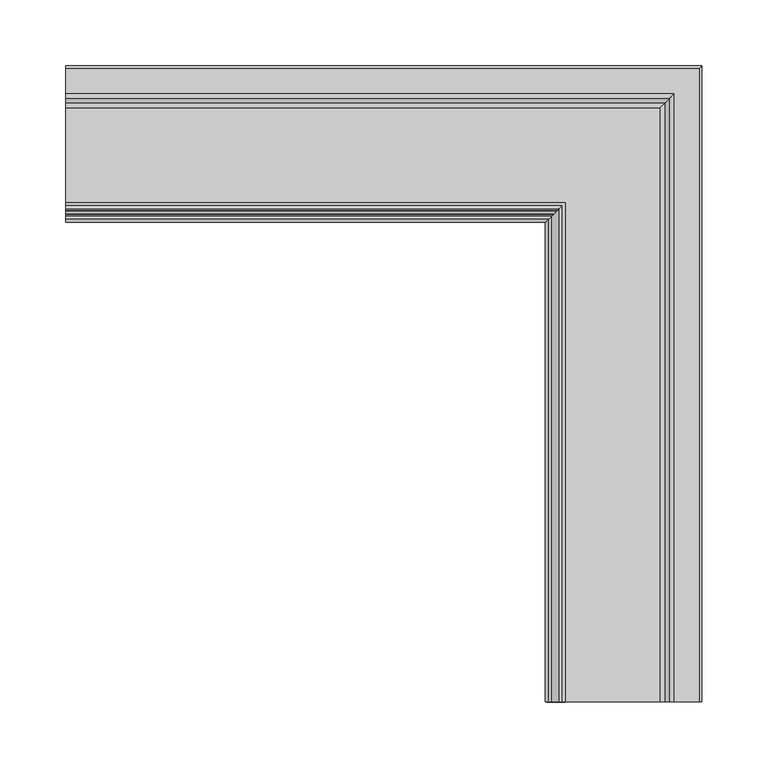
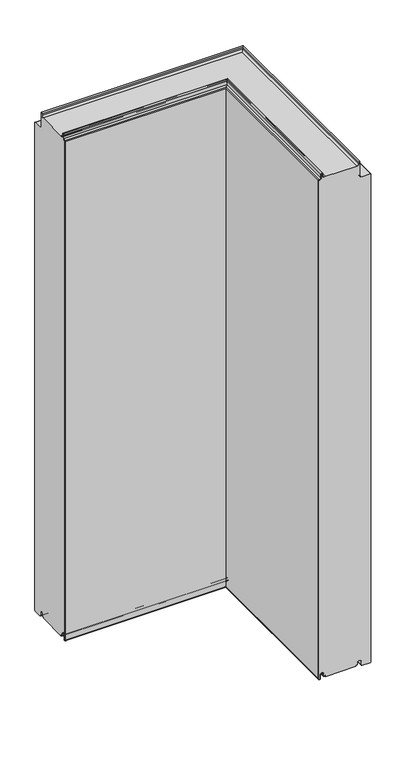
"""IFC4 building model written with IfcOpenShell, lengths in millimetres: plate geometry, Угловой модуль Fronttop : Угловой модуль Fronttop 120/1200."""

from ifc_helpers import new_model, si_unit, frame, origin, place, context, project, spatial, polyline, circle_curve, ellipse_curve, source, transform, mapped, element, save
from ifc_brep_helpers import plane_surface, cylinder_surface, revolved_surface, advanced_brep


def plate_14ed3cdb(model_context):
    return source(origin(), model_context, "Body", "AdvancedBrep", [
        advanced_brep(
        [(-234.5, 15.0, 3.0), (-234.5, 13.0, 3.0), (-234.5, 12.0, 4.0), (-234.5, 12.0, 8.0), (-234.5, 3.0, 8.0), (-234.5, 3.0, -0.5), (-234.5, 1.0, -0.5), (-234.5, 1.0, 1195.0278643), (-234.5, 2.1111111, 1196.0216723), (-234.5, 6.0, 1199.5), (-234.5, 6.0, 1208.0), (-234.5, 9.0, 1208.0), (-234.5, 9.0, 1204.0), (-234.5, 13.0, 1200.0), (-234.5, 87.0, 1200.0), (-234.5, 91.0, 1204.0), (-234.5, 91.0, 1208.0), (-234.5, 94.0, 1208.0), (-234.5, 94.0, 1175.0), (-234.5, 98.0, 1171.0), (-234.5, 117.0, 1171.0), (-234.5, 119.0, 1169.0), (-234.5, 119.0, 0.0), (-234.5, 117.0, -2.0), (-234.5, 99.0, -2.0), (-234.5, 97.0, 0.0), (-234.5, 97.0, 8.0), (-234.5, 88.0, 8.0), (-234.5, 88.0, 4.0), (-234.5, 87.0, 3.0), (-234.5, 85.0, 3.0), (-234.5, 85.0, 0.0), (-234.5, 15.0, 0.0), (145.0, 15.0, 0.0), (145.0, 15.0, 3.0), (215.0, 85.0, 0.0), (215.0, -364.5, 0.0), (145.0, -364.5, 0.0), (215.0, 85.0, 3.0), (217.0, 87.0, 3.0), (217.0, -364.5, 3.0), (215.0, -364.5, 3.0), (218.0, 88.0, 4.0), (218.0, 88.0, 8.0), (227.0, 97.0, 8.0), (227.0, 97.0, 0.0), (229.0, 99.0, -2.0), (247.0, 117.0, -2.0), (247.0, -364.5, -2.0), (229.0, -364.5, -2.0), (249.0, 119.0, 0.0), (249.0, 119.0, 1169.0), (247.0, 117.0, 1171.0), (228.0, 98.0, 1171.0), (228.0, -364.5, 1171.0), (247.0, -364.5, 1171.0), (224.0, 94.0, 1175.0), (224.0, 94.0, 1208.0), (221.0, 91.0, 1208.0), (221.0, 91.0, 1204.0), (217.0, 87.0, 1200.0), (143.0, 13.0, 1200.0), (143.0, -364.5, 1200.0), (217.0, -364.5, 1200.0), (139.0, 9.0, 1204.0), (139.0, 9.0, 1208.0), (136.0, 6.0, 1208.0), (136.0, 6.0, 1199.5), (132.1111111, 2.1111111, 1196.021672), (131.0, 1.0, 1195.0278643), (131.0, 1.0, -0.5), (133.0, 3.0, -0.5), (133.0, 3.0, 8.0), (142.0, 12.0, 8.0), (142.0, 12.0, 4.0), (143.0, 13.0, 3.0), (145.0, -364.5, 3.0), (143.0, -364.5, 3.0), (218.0, -364.5, 4.0), (218.0, -364.5, 8.0), (227.0, -364.5, 8.0), (227.0, -364.5, 0.0), (249.0, -364.5, 0.0), (249.0, -364.5, 1169.0), (224.0, -364.5, 1175.0), (224.0, -364.5, 1208.0), (221.0, -364.5, 1208.0), (221.0, -364.5, 1204.0), (139.0, -364.5, 1204.0), (139.0, -364.5, 1208.0), (136.0, -364.5, 1208.0), (136.0, -364.5, 1199.5), (132.1111111, -364.5, 1196.021672), (131.0, -364.5, 1195.0278643), (131.0, -364.5, -0.5), (133.0, -364.5, -0.5), (133.0, -364.5, 8.0), (142.0, -364.5, 8.0), (142.0, -364.5, 4.0)],
        [
            (0, 1),
            (1, 2, circle_curve(frame((-234.5, 13.0, 4.0), z_axis=(-1.0, 0.0, 0.0), x_axis=(0.0, -1.0, 0.0)), 1.0)),
            (2, 3),
            (3, 4, circle_curve(frame((-234.5, 7.5, 8.0), z_axis=(1.0, 0.0, 0.0), x_axis=(0.0, -1.0, 0.0)), 4.5)),
            (4, 5),
            (5, 6, circle_curve(frame((-234.5, 2.0, -0.5), z_axis=(-1.0, 0.0, 0.0), x_axis=(0.0, -1.0, 0.0)), 1.0)),
            (6, 7),
            (7, 8, circle_curve(frame((-234.5, 2.0, 1195.0278643), z_axis=(-1.0, 0.0, 0.0), x_axis=(0.0, -1.0, 0.0)), 1.0)),
            (8, 9, circle_curve(frame((-234.5, 2.5, 1199.5), z_axis=(1.0, 0.0, 0.0), x_axis=(0.0, -1.0, 0.0)), 3.5)),
            (9, 10),
            (10, 11, circle_curve(frame((-234.5, 7.5, 1208.0), z_axis=(-1.0, 0.0, 0.0), x_axis=(0.0, -1.0, 0.0)), 1.5)),
            (11, 12),
            (12, 13, circle_curve(frame((-234.5, 13.0, 1204.0), z_axis=(1.0, 0.0, 0.0), x_axis=(0.0, -1.0, 0.0)), 4.0)),
            (13, 14),
            (14, 15, circle_curve(frame((-234.5, 87.0, 1204.0), z_axis=(1.0, 0.0, 0.0), x_axis=(0.0, -1.0, 0.0)), 4.0)),
            (15, 16),
            (16, 17, circle_curve(frame((-234.5, 92.5, 1208.0), z_axis=(-1.0, 0.0, 0.0), x_axis=(0.0, -1.0, 0.0)), 1.5)),
            (17, 18),
            (18, 19, circle_curve(frame((-234.5, 98.0, 1175.0), z_axis=(1.0, 0.0, 0.0), x_axis=(0.0, -1.0, 0.0)), 4.0)),
            (19, 20),
            (20, 21, circle_curve(frame((-234.5, 117.0, 1169.0), z_axis=(-1.0, 0.0, 0.0), x_axis=(0.0, -1.0, 0.0)), 2.0)),
            (21, 22),
            (22, 23, circle_curve(frame((-234.5, 117.0, 0.0), z_axis=(-1.0, 0.0, 0.0), x_axis=(0.0, -1.0, 0.0)), 2.0)),
            (23, 24),
            (24, 25, circle_curve(frame((-234.5, 99.0, 0.0), z_axis=(-1.0, 0.0, 0.0), x_axis=(0.0, -1.0, 0.0)), 2.0)),
            (25, 26),
            (26, 27, circle_curve(frame((-234.5, 92.5, 8.0), z_axis=(1.0, 0.0, 0.0), x_axis=(0.0, -1.0, 0.0)), 4.5)),
            (27, 28),
            (28, 29, circle_curve(frame((-234.5, 87.0, 4.0), z_axis=(-1.0, 0.0, 0.0), x_axis=(0.0, -1.0, 0.0)), 1.0)),
            (29, 30),
            (30, 31),
            (31, 32),
            (32, 0),
            (32, 33),
            (33, 34),
            (34, 0),
            (31, 35),
            (35, 36),
            (36, 37),
            (37, 33),
            (30, 38),
            (38, 35),
            (29, 39),
            (39, 40),
            (40, 41),
            (41, 38),
            (28, 42),
            (42, 39, ellipse_curve(frame((217.0, 87.0, 4.0), z_axis=(-0.7071067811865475, 0.7071067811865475, 0.0), x_axis=(-0.7071067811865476, -0.7071067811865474, 0.0)), 1.4142136, 1.0)),
            (27, 43),
            (43, 42),
            (26, 44),
            (44, 43, ellipse_curve(frame((222.5, 92.5, 8.0), z_axis=(0.7071067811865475, -0.7071067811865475, 0.0), x_axis=(0.7071067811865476, 0.7071067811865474, 0.0)), 6.363961, 4.5)),
            (25, 45),
            (45, 44),
            (24, 46),
            (46, 45, ellipse_curve(frame((229.0, 99.0, 0.0), z_axis=(-0.7071067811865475, 0.7071067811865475, 0.0), x_axis=(-0.7071067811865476, -0.7071067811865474, 0.0)), 2.8284271, 2.0)),
            (23, 47),
            (47, 48),
            (48, 49),
            (49, 46),
            (22, 50),
            (50, 47, ellipse_curve(frame((247.0, 117.0, 0.0), z_axis=(-0.7071067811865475, 0.7071067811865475, 0.0), x_axis=(-0.7071067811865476, -0.7071067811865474, 0.0)), 2.8284271, 2.0)),
            (21, 51),
            (51, 50),
            (20, 52),
            (52, 51, ellipse_curve(frame((247.0, 117.0, 1169.0), z_axis=(-0.7071067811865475, 0.7071067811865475, 0.0), x_axis=(-0.7071067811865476, -0.7071067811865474, 0.0)), 2.8284271, 2.0)),
            (19, 53),
            (53, 54),
            (54, 55),
            (55, 52),
            (18, 56),
            (56, 53, ellipse_curve(frame((228.0, 98.0, 1175.0), z_axis=(0.7071067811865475, -0.7071067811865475, 0.0), x_axis=(0.7071067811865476, 0.7071067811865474, 0.0)), 5.6568542, 4.0)),
            (17, 57),
            (57, 56),
            (16, 58),
            (58, 57, ellipse_curve(frame((222.5, 92.5, 1208.0), z_axis=(-0.7071067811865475, 0.7071067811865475, 0.0), x_axis=(-0.7071067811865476, -0.7071067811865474, 0.0)), 2.1213203, 1.5)),
            (15, 59),
            (59, 58),
            (14, 60),
            (60, 59, ellipse_curve(frame((217.0, 87.0, 1204.0), z_axis=(0.7071067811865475, -0.7071067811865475, 0.0), x_axis=(0.7071067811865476, 0.7071067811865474, 0.0)), 5.6568542, 4.0)),
            (13, 61),
            (61, 62),
            (62, 63),
            (63, 60),
            (12, 64),
            (64, 61, ellipse_curve(frame((143.0, 13.0, 1204.0), z_axis=(0.7071067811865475, -0.7071067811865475, 0.0), x_axis=(0.7071067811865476, 0.7071067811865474, 0.0)), 5.6568542, 4.0)),
            (11, 65),
            (65, 64),
            (10, 66),
            (66, 65, ellipse_curve(frame((137.5, 7.5, 1208.0), z_axis=(-0.7071067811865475, 0.7071067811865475, 0.0), x_axis=(-0.7071067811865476, -0.7071067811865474, 0.0)), 2.1213204, 1.5)),
            (9, 67),
            (67, 66),
            (8, 68),
            (68, 67, ellipse_curve(frame((132.5, 2.5, 1199.5), z_axis=(0.7071067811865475, -0.7071067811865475, 0.0), x_axis=(0.7071067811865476, 0.7071067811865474, 0.0)), 4.9497475, 3.5)),
            (7, 69),
            (69, 68, ellipse_curve(frame((132.0, 2.0, 1195.0278643), z_axis=(-0.7071067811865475, 0.7071067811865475, 0.0), x_axis=(-0.7071067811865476, -0.7071067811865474, 0.0)), 1.4142136, 1.0)),
            (6, 70),
            (70, 69),
            (5, 71),
            (71, 70, ellipse_curve(frame((132.0, 2.0, -0.5), z_axis=(-0.7071067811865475, 0.7071067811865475, 0.0), x_axis=(-0.7071067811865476, -0.7071067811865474, 0.0)), 1.4142136, 1.0)),
            (4, 72),
            (72, 71),
            (3, 73),
            (73, 72, ellipse_curve(frame((137.5, 7.5, 8.0), z_axis=(0.7071067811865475, -0.7071067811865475, 0.0), x_axis=(0.7071067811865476, 0.7071067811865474, 0.0)), 6.363961, 4.5)),
            (2, 74),
            (74, 73),
            (1, 75),
            (75, 74, ellipse_curve(frame((143.0, 13.0, 4.0), z_axis=(-0.7071067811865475, 0.7071067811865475, 0.0), x_axis=(-0.7071067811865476, -0.7071067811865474, 0.0)), 1.4142136, 1.0)),
            (34, 76),
            (76, 77),
            (77, 75),
            (76, 37),
            (36, 41),
            (40, 78, circle_curve(frame((217.0, -364.5, 4.0), z_axis=(0.0, -1.0, 0.0), x_axis=(-1.0, 0.0, 0.0)), 1.0)),
            (78, 79),
            (79, 80, circle_curve(frame((222.5, -364.5, 8.0), z_axis=(0.0, 1.0, 0.0), x_axis=(-1.0, 0.0, 0.0)), 4.5)),
            (80, 81),
            (81, 49, circle_curve(frame((229.0, -364.5, 0.0), z_axis=(0.0, -1.0, 0.0), x_axis=(-1.0, 0.0, 0.0)), 2.0)),
            (48, 82, circle_curve(frame((247.0, -364.5, 0.0), z_axis=(0.0, -1.0, 0.0), x_axis=(-1.0, 0.0, 0.0)), 2.0)),
            (82, 83),
            (83, 55, circle_curve(frame((247.0, -364.5, 1169.0), z_axis=(0.0, -1.0, 0.0), x_axis=(-1.0, 0.0, 0.0)), 2.0)),
            (54, 84, circle_curve(frame((228.0, -364.5, 1175.0), z_axis=(0.0, 1.0, 0.0), x_axis=(-1.0, 0.0, 0.0)), 4.0)),
            (84, 85),
            (85, 86, circle_curve(frame((222.5, -364.5, 1208.0), z_axis=(0.0, -1.0, 0.0), x_axis=(-1.0, 0.0, 0.0)), 1.5)),
            (86, 87),
            (87, 63, circle_curve(frame((217.0, -364.5, 1204.0), z_axis=(0.0, 1.0, 0.0), x_axis=(-1.0, 0.0, 0.0)), 4.0)),
            (62, 88, circle_curve(frame((143.0, -364.5, 1204.0), z_axis=(0.0, 1.0, 0.0), x_axis=(-1.0, 0.0, 0.0)), 4.0)),
            (88, 89),
            (89, 90, circle_curve(frame((137.5, -364.5, 1208.0), z_axis=(0.0, -1.0, 0.0), x_axis=(-1.0, 0.0, 0.0)), 1.5)),
            (90, 91),
            (91, 92, circle_curve(frame((132.5, -364.5, 1199.5), z_axis=(0.0, 1.0, 0.0), x_axis=(-1.0, 0.0, 0.0)), 3.5)),
            (92, 93, circle_curve(frame((132.0, -364.5, 1195.0278643), z_axis=(0.0, -1.0, 0.0), x_axis=(-1.0, 0.0, 0.0)), 1.0)),
            (93, 94),
            (94, 95, circle_curve(frame((132.0, -364.5, -0.5), z_axis=(0.0, -1.0, 0.0), x_axis=(-1.0, 0.0, 0.0)), 1.0)),
            (95, 96),
            (96, 97, circle_curve(frame((137.5, -364.5, 8.0), z_axis=(0.0, 1.0, 0.0), x_axis=(-1.0, 0.0, 0.0)), 4.5)),
            (97, 98),
            (98, 77, circle_curve(frame((143.0, -364.5, 4.0), z_axis=(0.0, -1.0, 0.0), x_axis=(-1.0, 0.0, 0.0)), 1.0)),
            (42, 78),
            (43, 79),
            (44, 80),
            (45, 81),
            (50, 82),
            (51, 83),
            (56, 84),
            (57, 85),
            (58, 86),
            (59, 87),
            (64, 88),
            (65, 89),
            (66, 90),
            (67, 91),
            (68, 92),
            (69, 93),
            (70, 94),
            (71, 95),
            (72, 96),
            (73, 97),
            (74, 98),
        ],
        [
            plane_surface(frame((-234.5, 0.0, 0.0), z_axis=(-1.0, 0.0, 0.0), x_axis=(0.0, 0.0, 1.0))),
            plane_surface(frame((-234.5, 15.0, 0.0), z_axis=(0.0, -1.0, 0.0), x_axis=(1.0, 0.0, 0.0))),
            plane_surface(frame((-234.5, 85.0, 0.0), z_axis=(0.0, 0.0, -1.0), x_axis=(1.0, 0.0, 0.0))),
            plane_surface(frame((-234.5, 85.0, 3.0), z_axis=(0.0, 1.0, 0.0), x_axis=(1.0, 0.0, 0.0))),
            plane_surface(frame((-234.5, 87.0, 3.0), z_axis=(0.0, 0.0, -1.0), x_axis=(1.0, 0.0, 0.0))),
            cylinder_surface(frame((-234.5, 87.0, 4.0), z_axis=(-1.0, 0.0, 0.0), x_axis=(0.0, -1.0, 0.0)), 1.0),
            plane_surface(frame((-234.5, 88.0, 8.0), z_axis=(0.0, 1.0, 0.0), x_axis=(1.0, 0.0, 0.0))),
            revolved_surface(polyline([(227.0, 88.0, 8.0), (-234.5, 88.0, 8.0)]), (-234.5, 92.5, 8.0), (1.0, 0.0, 0.0)),
            plane_surface(frame((-234.5, 97.0, 0.0), z_axis=(0.0, -1.0, 0.0), x_axis=(1.0, 0.0, 0.0))),
            cylinder_surface(frame((-234.5, 99.0, 0.0), z_axis=(-1.0, 0.0, 0.0), x_axis=(0.0, -1.0, 0.0)), 2.0),
            plane_surface(frame((-234.5, 117.0, -2.0), z_axis=(0.0, 0.0, -1.0), x_axis=(1.0, 0.0, 0.0))),
            cylinder_surface(frame((-234.5, 117.0, 0.0), z_axis=(-1.0, 0.0, 0.0), x_axis=(0.0, -1.0, 0.0)), 2.0),
            plane_surface(frame((-234.5, 119.0, 1169.0), z_axis=(0.0, 1.0, 0.0), x_axis=(1.0, 0.0, 0.0))),
            cylinder_surface(frame((-234.5, 117.0, 1169.0), z_axis=(-1.0, 0.0, 0.0), x_axis=(0.0, -1.0, 0.0)), 2.0),
            plane_surface(frame((-234.5, 98.0, 1171.0), z_axis=(0.0, 0.0, 1.0), x_axis=(1.0, 0.0, 0.0))),
            revolved_surface(polyline([(231.9999999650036, 94.0, 1175.0), (-234.5, 94.0, 1175.0)]), (-234.5, 98.0, 1175.0), (1.0, 0.0, 0.0)),
            plane_surface(frame((-234.5, 94.0, 1208.0), z_axis=(0.0, 1.0, 0.0), x_axis=(1.0, 0.0, 0.0))),
            cylinder_surface(frame((-234.5, 92.5, 1208.0), z_axis=(-1.0, 0.0, 0.0), x_axis=(0.0, -1.0, 0.0)), 1.5),
            plane_surface(frame((-234.5, 91.0, 1204.0), z_axis=(0.0, -1.0, 0.0), x_axis=(1.0, 0.0, 0.0))),
            revolved_surface(polyline([(221.0, 83.0, 1204.0), (-234.5, 83.0, 1204.0)]), (-234.5, 87.0, 1204.0), (1.0, 0.0, 0.0)),
            plane_surface(frame((-234.5, 13.0, 1200.0), z_axis=(0.0, 0.0, 1.0), x_axis=(1.0, 0.0, 0.0))),
            revolved_surface(polyline([(146.9999999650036, 9.0, 1204.0), (-234.5, 9.0, 1204.0)]), (-234.5, 13.0, 1204.0), (1.0, 0.0, 0.0)),
            plane_surface(frame((-234.5, 9.0, 1208.0), z_axis=(0.0, 1.0, 0.0), x_axis=(1.0, 0.0, 0.0))),
            cylinder_surface(frame((-234.5, 7.5, 1208.0), z_axis=(-1.0, 0.0, 0.0), x_axis=(0.0, -1.0, 0.0)), 1.5),
            plane_surface(frame((-234.5, 6.0, 1199.5), z_axis=(0.0, -1.0, 0.0), x_axis=(1.0, 0.0, 0.0))),
            revolved_surface(polyline([(136.00000002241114, -1.0, 1199.5), (-234.5, -1.0, 1199.5)]), (-234.5, 2.5, 1199.5), (1.0, 0.0, 0.0)),
            cylinder_surface(frame((-234.5, 2.0, 1195.0278643), z_axis=(-1.0, 0.0, 0.0), x_axis=(0.0, -1.0, 0.0)), 1.0),
            plane_surface(frame((-234.5, 1.0, -0.5), z_axis=(0.0, -1.0, 0.0), x_axis=(1.0, 0.0, 0.0))),
            cylinder_surface(frame((-234.5, 2.0, -0.5), z_axis=(-1.0, 0.0, 0.0), x_axis=(0.0, -1.0, 0.0)), 1.0),
            plane_surface(frame((-234.5, 3.0, 8.0), z_axis=(0.0, 1.0, 0.0), x_axis=(1.0, 0.0, 0.0))),
            revolved_surface(polyline([(142.0, 3.0, 8.0), (-234.5, 3.0, 8.0)]), (-234.5, 7.5, 8.0), (1.0, 0.0, 0.0)),
            plane_surface(frame((-234.5, 12.0, 4.0), z_axis=(0.0, -1.0, 0.0), x_axis=(1.0, 0.0, 0.0))),
            cylinder_surface(frame((-234.5, 13.0, 4.0), z_axis=(-1.0, 0.0, 0.0), x_axis=(0.0, -1.0, 0.0)), 1.0),
            plane_surface(frame((-234.5, 15.0, 3.0), z_axis=(0.0, 0.0, -1.0), x_axis=(1.0, 0.0, 0.0))),
            plane_surface(frame((130.0, -364.5, 0.0), z_axis=(0.0, -1.0, 0.0), x_axis=(0.0, 0.0, 1.0))),
            plane_surface(frame((145.0, 15.0, 0.0), z_axis=(-1.0, 0.0, 0.0), x_axis=(0.0, -1.0, 0.0))),
            plane_surface(frame((215.0, 85.0, 3.0), z_axis=(1.0, 0.0, 0.0), x_axis=(0.0, -1.0, 0.0))),
            cylinder_surface(frame((217.0, 0.0, 4.0), z_axis=(0.0, 1.0, 0.0), x_axis=(-1.0, 0.0, 0.0)), 1.0),
            plane_surface(frame((218.0, 88.0, 8.0), z_axis=(1.0, 0.0, 0.0), x_axis=(0.0, -1.0, 0.0))),
            revolved_surface(polyline([(218.0, -364.5, 8.0), (218.0, 97.0, 8.0)]), (222.5, 0.0, 8.0), (0.0, -1.0, 0.0)),
            plane_surface(frame((227.0, 97.0, 0.0), z_axis=(-1.0, 0.0, 0.0), x_axis=(0.0, -1.0, 0.0))),
            cylinder_surface(frame((229.0, 0.0, 0.0), z_axis=(0.0, 1.0, 0.0), x_axis=(-1.0, 0.0, 0.0)), 2.0),
            cylinder_surface(frame((247.0, 0.0, 0.0), z_axis=(0.0, 1.0, 0.0), x_axis=(-1.0, 0.0, 0.0)), 2.0),
            plane_surface(frame((249.0, 119.0, 1169.0), z_axis=(1.0, 0.0, 0.0), x_axis=(0.0, -1.0, 0.0))),
            cylinder_surface(frame((247.0, 0.0, 1169.0), z_axis=(0.0, 1.0, 0.0), x_axis=(-1.0, 0.0, 0.0)), 2.0),
            revolved_surface(polyline([(224.0, -364.5, 1175.0), (224.0, 101.9999999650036, 1175.0)]), (228.0, 0.0, 1175.0), (0.0, -1.0, 0.0)),
            plane_surface(frame((224.0, 94.0, 1208.0), z_axis=(1.0, 0.0, 0.0), x_axis=(0.0, -1.0, 0.0))),
            cylinder_surface(frame((222.5, 0.0, 1208.0), z_axis=(0.0, 1.0, 0.0), x_axis=(-1.0, 0.0, 0.0)), 1.5),
            plane_surface(frame((221.0, 91.0, 1204.0), z_axis=(-1.0, 0.0, 0.0), x_axis=(0.0, -1.0, 0.0))),
            revolved_surface(polyline([(213.0, -364.5, 1204.0), (213.0, 91.0, 1204.0)]), (217.0, 0.0, 1204.0), (0.0, -1.0, 0.0)),
            revolved_surface(polyline([(139.0, -364.5, 1204.0), (139.0, 16.999999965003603, 1204.0)]), (143.0, 0.0, 1204.0), (0.0, -1.0, 0.0)),
            plane_surface(frame((139.0, 9.0, 1208.0), z_axis=(1.0, 0.0, 0.0), x_axis=(0.0, -1.0, 0.0))),
            cylinder_surface(frame((137.5, 0.0, 1208.0), z_axis=(0.0, 1.0, 0.0), x_axis=(-1.0, 0.0, 0.0)), 1.5),
            plane_surface(frame((136.0, 6.0, 1199.5), z_axis=(-1.0, 0.0, 0.0), x_axis=(0.0, -1.0, 0.0))),
            revolved_surface(polyline([(129.0, -364.5, 1199.5), (129.0, 6.000000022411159, 1199.5)]), (132.5, 0.0, 1199.5), (0.0, -1.0, 0.0)),
            cylinder_surface(frame((132.0, 0.0, 1195.0278643), z_axis=(0.0, 1.0, 0.0), x_axis=(-1.0, 0.0, 0.0)), 1.0),
            plane_surface(frame((131.0, 1.0, -0.5), z_axis=(-1.0, 0.0, 0.0), x_axis=(0.0, -1.0, 0.0))),
            cylinder_surface(frame((132.0, 0.0, -0.5), z_axis=(0.0, 1.0, 0.0), x_axis=(-1.0, 0.0, 0.0)), 1.0),
            plane_surface(frame((133.0, 3.0, 8.0), z_axis=(1.0, 0.0, 0.0), x_axis=(0.0, -1.0, 0.0))),
            revolved_surface(polyline([(133.0, -364.5, 8.0), (133.0, 12.0, 8.0)]), (137.5, 0.0, 8.0), (0.0, -1.0, 0.0)),
            plane_surface(frame((142.0, 12.0, 4.0), z_axis=(-1.0, 0.0, 0.0), x_axis=(0.0, -1.0, 0.0))),
            cylinder_surface(frame((143.0, 0.0, 4.0), z_axis=(0.0, 1.0, 0.0), x_axis=(-1.0, 0.0, 0.0)), 1.0),
        ],
        [
            (0, [[1, 2, 3, 4, 5, 6, 7, 8, 9, 10, 11, 12, 13, 14, 15, 16, 17, 18, 19, 20, 21, 22, 23, 24, 25, 26, 27, 28, 29, 30, 31, 32, 33]]),
            (1, [[-33, 34, 35, 36]]),
            (2, [[-32, 37, 38, 39, 40, -34]]),
            (3, [[-31, 41, 42, -37]]),
            (4, [[-30, 43, 44, 45, 46, -41]]),
            (5, [[-29, 47, 48, -43]]),
            (6, [[-28, 49, 50, -47]]),
            (7, [[-27, 51, 52, -49]]),
            (8, [[-26, 53, 54, -51]]),
            (9, [[-25, 55, 56, -53]]),
            (10, [[-24, 57, 58, 59, 60, -55]]),
            (11, [[-23, 61, 62, -57]]),
            (12, [[-22, 63, 64, -61]]),
            (13, [[-21, 65, 66, -63]]),
            (14, [[-20, 67, 68, 69, 70, -65]]),
            (15, [[-19, 71, 72, -67]]),
            (16, [[-18, 73, 74, -71]]),
            (17, [[-17, 75, 76, -73]]),
            (18, [[-16, 77, 78, -75]]),
            (19, [[-15, 79, 80, -77]]),
            (20, [[-14, 81, 82, 83, 84, -79]]),
            (21, [[-13, 85, 86, -81]]),
            (22, [[-12, 87, 88, -85]]),
            (23, [[-11, 89, 90, -87]]),
            (24, [[-10, 91, 92, -89]]),
            (25, [[-9, 93, 94, -91]]),
            (26, [[-8, 95, 96, -93]]),
            (27, [[-7, 97, 98, -95]]),
            (28, [[-6, 99, 100, -97]]),
            (29, [[-5, 101, 102, -99]]),
            (30, [[-4, 103, 104, -101]]),
            (31, [[-3, 105, 106, -103]]),
            (32, [[-2, 107, 108, -105]]),
            (33, [[-1, -36, 109, 110, 111, -107]]),
            (34, [[112, -39, 113, -45, 114, 115, 116, 117, 118, -59, 119, 120, 121, -69, 122, 123, 124, 125, 126, -83, 127, 128, 129, 130, 131, 132, 133, 134, 135, 136, 137, 138, -110]]),
            (35, [[-35, -40, -112, -109]]),
            (36, [[-42, -46, -113, -38]]),
            (37, [[-48, 139, -114, -44]]),
            (38, [[-50, 140, -115, -139]]),
            (39, [[-52, 141, -116, -140]]),
            (40, [[-54, 142, -117, -141]]),
            (41, [[-56, -60, -118, -142]]),
            (42, [[-62, 143, -119, -58]]),
            (43, [[-64, 144, -120, -143]]),
            (44, [[-66, -70, -121, -144]]),
            (45, [[-72, 145, -122, -68]]),
            (46, [[-74, 146, -123, -145]]),
            (47, [[-76, 147, -124, -146]]),
            (48, [[-78, 148, -125, -147]]),
            (49, [[-80, -84, -126, -148]]),
            (50, [[-86, 149, -127, -82]]),
            (51, [[-88, 150, -128, -149]]),
            (52, [[-90, 151, -129, -150]]),
            (53, [[-92, 152, -130, -151]]),
            (54, [[-94, 153, -131, -152]]),
            (55, [[-96, 154, -132, -153]]),
            (56, [[-98, 155, -133, -154]]),
            (57, [[-100, 156, -134, -155]]),
            (58, [[-102, 157, -135, -156]]),
            (59, [[-104, 158, -136, -157]]),
            (60, [[-106, 159, -137, -158]]),
            (61, [[-108, -111, -138, -159]]),
        ],
    ),
        advanced_brep(
        [(-234.5, 13.0, 1201.0), (-234.5, 15.0, 1201.0), (-234.5, 15.0, 1200.0), (-234.5, 13.0, 1200.0), (-234.5, 9.0, 1204.0), (-234.5, 9.0, 1208.0), (-234.5, 6.0, 1208.0), (-234.5, 6.0, 1199.5), (-234.5, 2.1134897, 1196.0214069), (-234.5, 1.0, 1195.0), (-234.5, 1.0, -0.5), (-234.5, 3.0, -0.5), (-234.5, 3.0, 8.0), (-234.5, 12.0, 8.0), (-234.5, 12.0, 4.0), (-234.5, 13.0, 3.0), (-234.5, 15.0, 3.0), (-234.5, 15.0, 2.0), (-234.5, 13.0, 2.0), (-234.5, 11.0, 4.0), (-234.5, 11.0, 8.0), (-234.5, 4.0, 8.0), (-234.5, 4.0, -0.5), (-234.5, 0.0, -0.5), (-234.5, 0.0, 1195.0), (-234.5, 2.220863, 1196.9877675), (-234.5, 5.0, 1199.5), (-234.5, 5.0, 1208.0), (-234.5, 10.0, 1208.0), (-234.5, 10.0, 1204.0), (143.0, 13.0, 1201.0), (143.0, -364.5, 1201.0), (145.0, -364.5, 1201.0), (145.0, 15.0, 1201.0), (145.0, 15.0, 1200.0), (145.0, -364.5, 1200.0), (143.0, -364.5, 1200.0), (143.0, 13.0, 1200.0), (139.0, 9.0, 1204.0), (139.0, 9.0, 1208.0), (136.0, 6.0, 1208.0), (136.0, 6.0, 1199.5), (132.1134897, 2.1134897, 1196.0214069), (131.0, 1.0, 1195.0), (131.0, 1.0, -0.5), (133.0, 3.0, -0.5), (133.0, 3.0, 8.0), (142.0, 12.0, 8.0), (142.0, 12.0, 4.0), (143.0, 13.0, 3.0), (143.0, -364.5, 3.0), (145.0, -364.5, 3.0), (145.0, 15.0, 3.0), (145.0, 15.0, 2.0), (145.0, -364.5, 2.0), (143.0, -364.5, 2.0), (143.0, 13.0, 2.0), (141.0, 11.0, 4.0), (141.0, 11.0, 8.0), (134.0, 4.0, 8.0), (134.0, 4.0, -0.5), (130.0, 0.0, -0.5), (130.0, 0.0, 1195.0), (132.220863, 2.220863, 1196.9877675), (135.0, 5.0, 1199.5), (135.0, 5.0, 1208.0), (140.0, 10.0, 1208.0), (140.0, 10.0, 1204.0), (140.0, -364.5, 1204.0), (140.0, -364.5, 1208.0), (135.0, -364.5, 1208.0), (135.0, -364.5, 1199.5), (132.2239212, -364.5, 1197.0152907), (130.0, -364.5, 1195.0), (130.0, -364.5, -0.5), (134.0, -364.5, -0.5), (134.0, -364.5, 8.0), (141.0, -364.5, 8.0), (141.0, -364.5, 4.0), (142.0, -364.5, 4.0), (142.0, -364.5, 8.0), (133.0, -364.5, 8.0), (133.0, -364.5, -0.5), (131.0, -364.5, -0.5), (131.0, -364.5, 1195.0), (132.1104315, -364.5, 1195.9938837), (136.0, -364.5, 1199.5), (136.0, -364.5, 1208.0), (139.0, -364.5, 1208.0), (139.0, -364.5, 1204.0)],
        [
            (0, 1),
            (1, 2),
            (2, 3),
            (3, 4, circle_curve(frame((-234.5, 13.0, 1204.0), z_axis=(-1.0, 0.0, 0.0), x_axis=(0.0, -1.0, 0.0)), 4.0)),
            (4, 5),
            (5, 6, circle_curve(frame((-234.5, 7.5, 1208.0), z_axis=(1.0, 0.0, 0.0), x_axis=(0.0, -1.0, 0.0)), 1.5)),
            (6, 7),
            (7, 8, circle_curve(frame((-234.5, 2.5, 1199.5), z_axis=(-1.0, 0.0, 0.0), x_axis=(0.0, -1.0, 0.0)), 3.5)),
            (8, 9, circle_curve(frame((-234.5, 2.0, 1195.0), z_axis=(1.0, 0.0, 0.0), x_axis=(0.0, -1.0, 0.0)), 1.0)),
            (9, 10),
            (10, 11, circle_curve(frame((-234.5, 2.0, -0.5), z_axis=(1.0, 0.0, 0.0), x_axis=(0.0, -1.0, 0.0)), 1.0)),
            (11, 12),
            (12, 13, circle_curve(frame((-234.5, 7.5, 8.0), z_axis=(-1.0, 0.0, 0.0), x_axis=(0.0, -1.0, 0.0)), 4.5)),
            (13, 14),
            (14, 15, circle_curve(frame((-234.5, 13.0, 4.0), z_axis=(1.0, 0.0, 0.0), x_axis=(0.0, -1.0, 0.0)), 1.0)),
            (15, 16),
            (16, 17),
            (17, 18),
            (18, 19, circle_curve(frame((-234.5, 13.0, 4.0), z_axis=(-1.0, 0.0, 0.0), x_axis=(0.0, -1.0, 0.0)), 2.0)),
            (19, 20),
            (20, 21, circle_curve(frame((-234.5, 7.5, 8.0), z_axis=(1.0, 0.0, 0.0), x_axis=(0.0, -1.0, 0.0)), 3.5)),
            (21, 22),
            (22, 23, circle_curve(frame((-234.5, 2.0, -0.5), z_axis=(-1.0, 0.0, 0.0), x_axis=(0.0, -1.0, 0.0)), 2.0)),
            (23, 24),
            (24, 25, circle_curve(frame((-234.5, 2.0, 1195.0), z_axis=(-1.0, 0.0, 0.0), x_axis=(0.0, -1.0, 0.0)), 2.0)),
            (25, 26, circle_curve(frame((-234.5, 2.5, 1199.5), z_axis=(1.0, 0.0, 0.0), x_axis=(0.0, -1.0, 0.0)), 2.5)),
            (26, 27),
            (27, 28, circle_curve(frame((-234.5, 7.5, 1208.0), z_axis=(-1.0, 0.0, 0.0), x_axis=(0.0, -1.0, 0.0)), 2.5)),
            (28, 29),
            (29, 0, circle_curve(frame((-234.5, 13.0, 1204.0), z_axis=(1.0, 0.0, 0.0), x_axis=(0.0, -1.0, 0.0)), 3.0)),
            (0, 30),
            (30, 31),
            (31, 32),
            (32, 33),
            (33, 1),
            (33, 34),
            (34, 2),
            (34, 35),
            (35, 36),
            (36, 37),
            (37, 3),
            (37, 38, ellipse_curve(frame((143.0, 13.0, 1204.0), z_axis=(-0.7071067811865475, 0.7071067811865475, 0.0), x_axis=(-0.7071067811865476, -0.7071067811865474, 0.0)), 5.6568542, 4.0)),
            (38, 4),
            (38, 39),
            (39, 5),
            (39, 40, ellipse_curve(frame((137.5, 7.5, 1208.0), z_axis=(0.7071067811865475, -0.7071067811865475, 0.0), x_axis=(0.7071067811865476, 0.7071067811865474, 0.0)), 2.1213204, 1.5)),
            (40, 6),
            (40, 41),
            (41, 7),
            (41, 42, ellipse_curve(frame((132.5, 2.5, 1199.5), z_axis=(-0.7071067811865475, 0.7071067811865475, 0.0), x_axis=(-0.7071067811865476, -0.7071067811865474, 0.0)), 4.9497475, 3.5)),
            (42, 8),
            (42, 43, ellipse_curve(frame((132.0, 2.0, 1195.0), z_axis=(0.7071067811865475, -0.7071067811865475, 0.0), x_axis=(0.7071067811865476, 0.7071067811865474, 0.0)), 1.4142136, 1.0)),
            (43, 9),
            (43, 44),
            (44, 10),
            (44, 45, ellipse_curve(frame((132.0, 2.0, -0.5), z_axis=(0.7071067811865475, -0.7071067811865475, 0.0), x_axis=(0.7071067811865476, 0.7071067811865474, 0.0)), 1.4142136, 1.0)),
            (45, 11),
            (45, 46),
            (46, 12),
            (46, 47, ellipse_curve(frame((137.5, 7.5, 8.0), z_axis=(-0.7071067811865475, 0.7071067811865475, 0.0), x_axis=(-0.7071067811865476, -0.7071067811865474, 0.0)), 6.363961, 4.5)),
            (47, 13),
            (47, 48),
            (48, 14),
            (48, 49, ellipse_curve(frame((143.0, 13.0, 4.0), z_axis=(0.7071067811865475, -0.7071067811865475, 0.0), x_axis=(0.7071067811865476, 0.7071067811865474, 0.0)), 1.4142136, 1.0)),
            (49, 15),
            (49, 50),
            (50, 51),
            (51, 52),
            (52, 16),
            (52, 53),
            (53, 17),
            (53, 54),
            (54, 55),
            (55, 56),
            (56, 18),
            (56, 57, ellipse_curve(frame((143.0, 13.0, 4.0), z_axis=(-0.7071067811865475, 0.7071067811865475, 0.0), x_axis=(-0.7071067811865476, -0.7071067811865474, 0.0)), 2.8284271, 2.0)),
            (57, 19),
            (57, 58),
            (58, 20),
            (58, 59, ellipse_curve(frame((137.5, 7.5, 8.0), z_axis=(0.7071067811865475, -0.7071067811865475, 0.0), x_axis=(0.7071067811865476, 0.7071067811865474, 0.0)), 4.9497475, 3.5)),
            (59, 21),
            (59, 60),
            (60, 22),
            (60, 61, ellipse_curve(frame((132.0, 2.0, -0.5), z_axis=(-0.7071067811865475, 0.7071067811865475, 0.0), x_axis=(-0.7071067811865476, -0.7071067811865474, 0.0)), 2.8284271, 2.0)),
            (61, 23),
            (61, 62),
            (62, 24),
            (62, 63, ellipse_curve(frame((132.0, 2.0, 1195.0), z_axis=(-0.7071067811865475, 0.7071067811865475, 0.0), x_axis=(-0.7071067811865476, -0.7071067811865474, 0.0)), 2.8284271, 2.0)),
            (63, 25),
            (63, 64, ellipse_curve(frame((132.5, 2.5, 1199.5), z_axis=(0.7071067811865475, -0.7071067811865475, 0.0), x_axis=(0.7071067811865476, 0.7071067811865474, 0.0)), 3.5355339, 2.5)),
            (64, 26),
            (64, 65),
            (65, 27),
            (65, 66, ellipse_curve(frame((137.5, 7.5, 1208.0), z_axis=(-0.7071067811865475, 0.7071067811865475, 0.0), x_axis=(-0.7071067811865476, -0.7071067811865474, 0.0)), 3.5355339, 2.5)),
            (66, 28),
            (66, 67),
            (67, 29),
            (67, 30, ellipse_curve(frame((143.0, 13.0, 1204.0), z_axis=(0.7071067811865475, -0.7071067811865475, 0.0), x_axis=(0.7071067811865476, 0.7071067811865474, 0.0)), 4.2426407, 3.0)),
            (31, 68, circle_curve(frame((143.0, -364.5, 1204.0), z_axis=(0.0, 1.0, 0.0), x_axis=(-1.0, 0.0, 0.0)), 3.0)),
            (68, 69),
            (69, 70, circle_curve(frame((137.5, -364.5, 1208.0), z_axis=(0.0, -1.0, 0.0), x_axis=(-1.0, 0.0, 0.0)), 2.5)),
            (70, 71),
            (71, 72, circle_curve(frame((132.5, -364.5, 1199.5), z_axis=(0.0, 1.0, 0.0), x_axis=(-1.0, 0.0, 0.0)), 2.5)),
            (72, 73, circle_curve(frame((132.0, -364.5, 1195.0), z_axis=(0.0, -1.0, 0.0), x_axis=(-1.0, 0.0, 0.0)), 2.0)),
            (73, 74),
            (74, 75, circle_curve(frame((132.0, -364.5, -0.5), z_axis=(0.0, -1.0, 0.0), x_axis=(-1.0, 0.0, 0.0)), 2.0)),
            (75, 76),
            (76, 77, circle_curve(frame((137.5, -364.5, 8.0), z_axis=(0.0, 1.0, 0.0), x_axis=(-1.0, 0.0, 0.0)), 3.5)),
            (77, 78),
            (78, 55, circle_curve(frame((143.0, -364.5, 4.0), z_axis=(0.0, -1.0, 0.0), x_axis=(-1.0, 0.0, 0.0)), 2.0)),
            (54, 51),
            (50, 79, circle_curve(frame((143.0, -364.5, 4.0), z_axis=(0.0, 1.0, 0.0), x_axis=(-1.0, 0.0, 0.0)), 1.0)),
            (79, 80),
            (80, 81, circle_curve(frame((137.5, -364.5, 8.0), z_axis=(0.0, -1.0, 0.0), x_axis=(-1.0, 0.0, 0.0)), 4.5)),
            (81, 82),
            (82, 83, circle_curve(frame((132.0, -364.5, -0.5), z_axis=(0.0, 1.0, 0.0), x_axis=(-1.0, 0.0, 0.0)), 1.0)),
            (83, 84),
            (84, 85, circle_curve(frame((132.0, -364.5, 1195.0), z_axis=(0.0, 1.0, 0.0), x_axis=(-1.0, 0.0, 0.0)), 1.0)),
            (85, 86, circle_curve(frame((132.5, -364.5, 1199.5), z_axis=(0.0, -1.0, 0.0), x_axis=(-1.0, 0.0, 0.0)), 3.5)),
            (86, 87),
            (87, 88, circle_curve(frame((137.5, -364.5, 1208.0), z_axis=(0.0, 1.0, 0.0), x_axis=(-1.0, 0.0, 0.0)), 1.5)),
            (88, 89),
            (89, 36, circle_curve(frame((143.0, -364.5, 1204.0), z_axis=(0.0, -1.0, 0.0), x_axis=(-1.0, 0.0, 0.0)), 4.0)),
            (35, 32),
            (89, 38),
            (88, 39),
            (87, 40),
            (86, 41),
            (85, 42),
            (84, 43),
            (83, 44),
            (82, 45),
            (81, 46),
            (80, 47),
            (79, 48),
            (78, 57),
            (77, 58),
            (76, 59),
            (75, 60),
            (74, 61),
            (73, 62),
            (72, 63),
            (71, 64),
            (70, 65),
            (69, 66),
            (68, 67),
        ],
        [
            plane_surface(frame((-234.5, 0.0, 0.0), z_axis=(-1.0, 0.0, 0.0), x_axis=(0.0, 0.0, 1.0))),
            plane_surface(frame((-234.5, 13.0, 1201.0), z_axis=(0.0, 0.0, 1.0), x_axis=(1.0, 0.0, 0.0))),
            plane_surface(frame((-234.5, 15.0, 1201.0), z_axis=(0.0, 1.0, 0.0), x_axis=(1.0, 0.0, 0.0))),
            plane_surface(frame((-234.5, 15.0, 1200.0), z_axis=(0.0, 0.0, -1.0), x_axis=(1.0, 0.0, 0.0))),
            cylinder_surface(frame((-234.5, 13.0, 1204.0), z_axis=(-1.0, 0.0, 0.0), x_axis=(0.0, -1.0, 0.0)), 4.0),
            plane_surface(frame((-234.5, 9.0, 1204.0), z_axis=(0.0, -1.0, 0.0), x_axis=(1.0, 0.0, 0.0))),
            revolved_surface(polyline([(139.00000003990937, 6.0, 1208.0), (-234.5, 6.0, 1208.0)]), (-234.5, 7.5, 1208.0), (1.0, 0.0, 0.0)),
            plane_surface(frame((-234.5, 6.0, 1208.0), z_axis=(0.0, 1.0, 0.0), x_axis=(1.0, 0.0, 0.0))),
            cylinder_surface(frame((-234.5, 2.5, 1199.5), z_axis=(-1.0, 0.0, 0.0), x_axis=(0.0, -1.0, 0.0)), 3.5),
            revolved_surface(polyline([(133.00000002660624, 1.0, 1195.0), (-234.5, 1.0, 1195.0)]), (-234.5, 2.0, 1195.0), (1.0, 0.0, 0.0)),
            plane_surface(frame((-234.5, 1.0, 1195.0), z_axis=(0.0, 1.0, 0.0), x_axis=(1.0, 0.0, 0.0))),
            revolved_surface(polyline([(133.00000002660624, 1.0, -0.5), (-234.5, 1.0, -0.5)]), (-234.5, 2.0, -0.5), (1.0, 0.0, 0.0)),
            plane_surface(frame((-234.5, 3.0, -0.5), z_axis=(0.0, -1.0, 0.0), x_axis=(1.0, 0.0, 0.0))),
            cylinder_surface(frame((-234.5, 7.5, 8.0), z_axis=(-1.0, 0.0, 0.0), x_axis=(0.0, -1.0, 0.0)), 4.5),
            plane_surface(frame((-234.5, 12.0, 8.0), z_axis=(0.0, 1.0, 0.0), x_axis=(1.0, 0.0, 0.0))),
            revolved_surface(polyline([(144.00000002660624, 12.0, 4.0), (-234.5, 12.0, 4.0)]), (-234.5, 13.0, 4.0), (1.0, 0.0, 0.0)),
            plane_surface(frame((-234.5, 13.0, 3.0), z_axis=(0.0, 0.0, 1.0), x_axis=(1.0, 0.0, 0.0))),
            plane_surface(frame((-234.5, 15.0, 3.0), z_axis=(0.0, 1.0, 0.0), x_axis=(1.0, 0.0, 0.0))),
            plane_surface(frame((-234.5, 15.0, 2.0), z_axis=(0.0, 0.0, -1.0), x_axis=(1.0, 0.0, 0.0))),
            cylinder_surface(frame((-234.5, 13.0, 4.0), z_axis=(-1.0, 0.0, 0.0), x_axis=(0.0, -1.0, 0.0)), 2.0),
            plane_surface(frame((-234.5, 11.0, 4.0), z_axis=(0.0, -1.0, 0.0), x_axis=(1.0, 0.0, 0.0))),
            revolved_surface(polyline([(141.00000002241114, 4.0, 8.0), (-234.5, 4.0, 8.0)]), (-234.5, 7.5, 8.0), (1.0, 0.0, 0.0)),
            plane_surface(frame((-234.5, 4.0, 8.0), z_axis=(0.0, 1.0, 0.0), x_axis=(1.0, 0.0, 0.0))),
            cylinder_surface(frame((-234.5, 2.0, -0.5), z_axis=(-1.0, 0.0, 0.0), x_axis=(0.0, -1.0, 0.0)), 2.0),
            plane_surface(frame((-234.5, 0.0, -0.5), z_axis=(0.0, -1.0, 0.0), x_axis=(1.0, 0.0, 0.0))),
            cylinder_surface(frame((-234.5, 2.0, 1195.0), z_axis=(-1.0, 0.0, 0.0), x_axis=(0.0, -1.0, 0.0)), 2.0),
            revolved_surface(polyline([(135.0, 0.0, 1199.5), (-234.5, 0.0, 1199.5)]), (-234.5, 2.5, 1199.5), (1.0, 0.0, 0.0)),
            plane_surface(frame((-234.5, 5.0, 1199.5), z_axis=(0.0, -1.0, 0.0), x_axis=(1.0, 0.0, 0.0))),
            cylinder_surface(frame((-234.5, 7.5, 1208.0), z_axis=(-1.0, 0.0, 0.0), x_axis=(0.0, -1.0, 0.0)), 2.5),
            plane_surface(frame((-234.5, 10.0, 1208.0), z_axis=(0.0, 1.0, 0.0), x_axis=(1.0, 0.0, 0.0))),
            revolved_surface(polyline([(146.00000000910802, 10.0, 1204.0), (-234.5, 10.0, 1204.0)]), (-234.5, 13.0, 1204.0), (1.0, 0.0, 0.0)),
            plane_surface(frame((130.0, -364.5, 0.0), z_axis=(0.0, -1.0, 0.0), x_axis=(0.0, 0.0, 1.0))),
            plane_surface(frame((145.0, 15.0, 1201.0), z_axis=(1.0, 0.0, 0.0), x_axis=(0.0, -1.0, 0.0))),
            cylinder_surface(frame((143.0, 0.0, 1204.0), z_axis=(0.0, 1.0, 0.0), x_axis=(-1.0, 0.0, 0.0)), 4.0),
            plane_surface(frame((139.0, 9.0, 1204.0), z_axis=(-1.0, 0.0, 0.0), x_axis=(0.0, -1.0, 0.0))),
            revolved_surface(polyline([(136.0, -364.5, 1208.0), (136.0, 9.00000003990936, 1208.0)]), (137.5, 0.0, 1208.0), (0.0, -1.0, 0.0)),
            plane_surface(frame((136.0, 6.0, 1208.0), z_axis=(1.0, 0.0, 0.0), x_axis=(0.0, -1.0, 0.0))),
            cylinder_surface(frame((132.5, 0.0, 1199.5), z_axis=(0.0, 1.0, 0.0), x_axis=(-1.0, 0.0, 0.0)), 3.5),
            revolved_surface(polyline([(131.0, -364.5, 1195.0), (131.0, 3.0000000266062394, 1195.0)]), (132.0, 0.0, 1195.0), (0.0, -1.0, 0.0)),
            plane_surface(frame((131.0, 1.0, 1195.0), z_axis=(1.0, 0.0, 0.0), x_axis=(0.0, -1.0, 0.0))),
            revolved_surface(polyline([(131.0, -364.5, -0.5), (131.0, 3.0000000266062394, -0.5)]), (132.0, 0.0, -0.5), (0.0, -1.0, 0.0)),
            plane_surface(frame((133.0, 3.0, -0.5), z_axis=(-1.0, 0.0, 0.0), x_axis=(0.0, -1.0, 0.0))),
            cylinder_surface(frame((137.5, 0.0, 8.0), z_axis=(0.0, 1.0, 0.0), x_axis=(-1.0, 0.0, 0.0)), 4.5),
            plane_surface(frame((142.0, 12.0, 8.0), z_axis=(1.0, 0.0, 0.0), x_axis=(0.0, -1.0, 0.0))),
            revolved_surface(polyline([(142.0, -364.5, 4.0), (142.0, 14.000000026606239, 4.0)]), (143.0, 0.0, 4.0), (0.0, -1.0, 0.0)),
            plane_surface(frame((145.0, 15.0, 3.0), z_axis=(1.0, 0.0, 0.0), x_axis=(0.0, -1.0, 0.0))),
            cylinder_surface(frame((143.0, 0.0, 4.0), z_axis=(0.0, 1.0, 0.0), x_axis=(-1.0, 0.0, 0.0)), 2.0),
            plane_surface(frame((141.0, 11.0, 4.0), z_axis=(-1.0, 0.0, 0.0), x_axis=(0.0, -1.0, 0.0))),
            revolved_surface(polyline([(134.0, -364.5, 8.0), (134.0, 11.00000002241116, 8.0)]), (137.5, 0.0, 8.0), (0.0, -1.0, 0.0)),
            plane_surface(frame((134.0, 4.0, 8.0), z_axis=(1.0, 0.0, 0.0), x_axis=(0.0, -1.0, 0.0))),
            cylinder_surface(frame((132.0, 0.0, -0.5), z_axis=(0.0, 1.0, 0.0), x_axis=(-1.0, 0.0, 0.0)), 2.0),
            plane_surface(frame((130.0, 0.0, -0.5), z_axis=(-1.0, 0.0, 0.0), x_axis=(0.0, -1.0, 0.0))),
            cylinder_surface(frame((132.0, 0.0, 1195.0), z_axis=(0.0, 1.0, 0.0), x_axis=(-1.0, 0.0, 0.0)), 2.0),
            revolved_surface(polyline([(130.0, -364.5, 1199.5), (130.0, 5.0, 1199.5)]), (132.5, 0.0, 1199.5), (0.0, -1.0, 0.0)),
            plane_surface(frame((135.0, 5.0, 1199.5), z_axis=(-1.0, 0.0, 0.0), x_axis=(0.0, -1.0, 0.0))),
            cylinder_surface(frame((137.5, 0.0, 1208.0), z_axis=(0.0, 1.0, 0.0), x_axis=(-1.0, 0.0, 0.0)), 2.5),
            plane_surface(frame((140.0, 10.0, 1208.0), z_axis=(1.0, 0.0, 0.0), x_axis=(0.0, -1.0, 0.0))),
            revolved_surface(polyline([(140.0, -364.5, 1204.0), (140.0, 16.00000000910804, 1204.0)]), (143.0, 0.0, 1204.0), (0.0, -1.0, 0.0)),
        ],
        [
            (0, [[1, 2, 3, 4, 5, 6, 7, 8, 9, 10, 11, 12, 13, 14, 15, 16, 17, 18, 19, 20, 21, 22, 23, 24, 25, 26, 27, 28, 29, 30]]),
            (1, [[-1, 31, 32, 33, 34, 35]]),
            (2, [[-2, -35, 36, 37]]),
            (3, [[-3, -37, 38, 39, 40, 41]]),
            (4, [[-4, -41, 42, 43]]),
            (5, [[-5, -43, 44, 45]]),
            (6, [[-6, -45, 46, 47]]),
            (7, [[-7, -47, 48, 49]]),
            (8, [[-8, -49, 50, 51]]),
            (9, [[-9, -51, 52, 53]]),
            (10, [[-10, -53, 54, 55]]),
            (11, [[-11, -55, 56, 57]]),
            (12, [[-12, -57, 58, 59]]),
            (13, [[-13, -59, 60, 61]]),
            (14, [[-14, -61, 62, 63]]),
            (15, [[-15, -63, 64, 65]]),
            (16, [[-16, -65, 66, 67, 68, 69]]),
            (17, [[-17, -69, 70, 71]]),
            (18, [[-18, -71, 72, 73, 74, 75]]),
            (19, [[-19, -75, 76, 77]]),
            (20, [[-20, -77, 78, 79]]),
            (21, [[-21, -79, 80, 81]]),
            (22, [[-22, -81, 82, 83]]),
            (23, [[-23, -83, 84, 85]]),
            (24, [[-24, -85, 86, 87]]),
            (25, [[-25, -87, 88, 89]]),
            (26, [[-26, -89, 90, 91]]),
            (27, [[-27, -91, 92, 93]]),
            (28, [[-28, -93, 94, 95]]),
            (29, [[-29, -95, 96, 97]]),
            (30, [[-30, -97, 98, -31]]),
            (31, [[99, 100, 101, 102, 103, 104, 105, 106, 107, 108, 109, 110, -73, 111, -67, 112, 113, 114, 115, 116, 117, 118, 119, 120, 121, 122, 123, -39, 124, -33]]),
            (32, [[-36, -34, -124, -38]]),
            (33, [[-42, -40, -123, 125]]),
            (34, [[-44, -125, -122, 126]]),
            (35, [[-46, -126, -121, 127]]),
            (36, [[-48, -127, -120, 128]]),
            (37, [[-50, -128, -119, 129]]),
            (38, [[-52, -129, -118, 130]]),
            (39, [[-54, -130, -117, 131]]),
            (40, [[-56, -131, -116, 132]]),
            (41, [[-58, -132, -115, 133]]),
            (42, [[-60, -133, -114, 134]]),
            (43, [[-62, -134, -113, 135]]),
            (44, [[-64, -135, -112, -66]]),
            (45, [[-70, -68, -111, -72]]),
            (46, [[-76, -74, -110, 136]]),
            (47, [[-78, -136, -109, 137]]),
            (48, [[-80, -137, -108, 138]]),
            (49, [[-82, -138, -107, 139]]),
            (50, [[-84, -139, -106, 140]]),
            (51, [[-86, -140, -105, 141]]),
            (52, [[-88, -141, -104, 142]]),
            (53, [[-90, -142, -103, 143]]),
            (54, [[-92, -143, -102, 144]]),
            (55, [[-94, -144, -101, 145]]),
            (56, [[-96, -145, -100, 146]]),
            (57, [[-98, -146, -99, -32]]),
        ],
    ),
    ])


if __name__ == "__main__":
    model = new_model("IFC4")
    model_context = context("Model", 3, world=origin())
    ifc_project = project(units=[si_unit("LENGTHUNIT", "METRE", prefix="MILLI")], contexts=[model_context])
    site = spatial("IfcSite", under=ifc_project)
    building = spatial("IfcBuilding", under=site)
    placement = place(None, origin())
    plate_shape = plate_14ed3cdb(model_context)
    element("IfcPlate", 1, ObjectType="Угловой модуль Fronttop : Угловой модуль Fronttop 120/1200", at=placement, inside=building, context=model_context, shape_type="MappedRepresentation", body=[
        mapped(plate_shape, transform((0.0, 0.0, 0.0), x_axis=(1.0, 0.0, 0.0), y_axis=(0.0, 1.0, 0.0), z_axis=(0.0, 0.0, 1.0))),
    ])
    save(model, "model.ifc")
